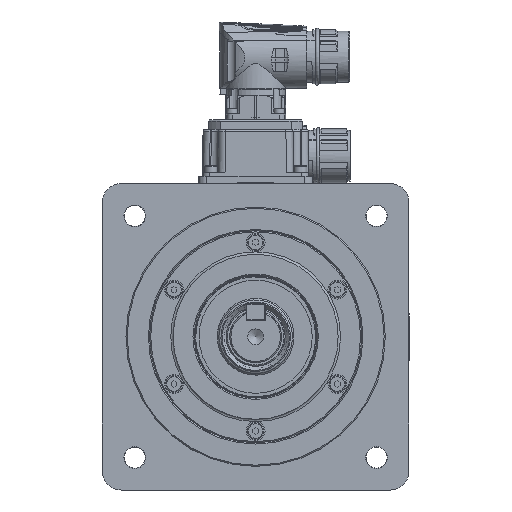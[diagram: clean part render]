
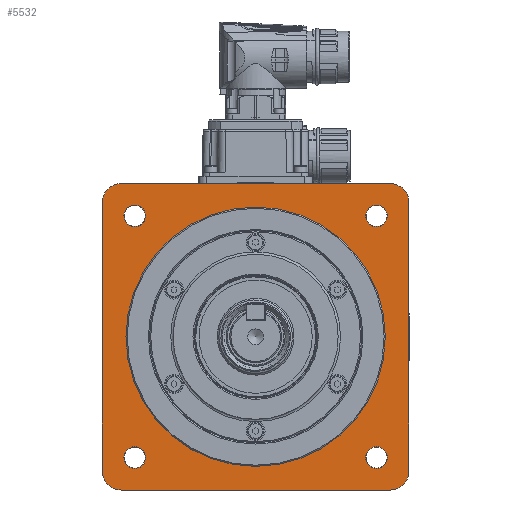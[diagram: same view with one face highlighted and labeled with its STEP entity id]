
A CAD part, front view. The second image highlights one B-rep face of the part: STEP entity #5532.
In plain terms, the highlighted planar face has unit normal (0, -1, 0).
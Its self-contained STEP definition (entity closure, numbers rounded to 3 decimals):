
#5532 = ADVANCED_FACE( '', ( #12633, #12634, #12635, #12636, #12637, #12638 ), #12639, .F. );
#12633 = FACE_BOUND( '', #28302, .T. );
#12634 = FACE_OUTER_BOUND( '', #28303, .T. );
#12635 = FACE_BOUND( '', #28304, .T. );
#12636 = FACE_BOUND( '', #28305, .T. );
#12637 = FACE_BOUND( '', #28306, .T. );
#12638 = FACE_BOUND( '', #28307, .T. );
#12639 = PLANE( '', #28308 );
#28302 = EDGE_LOOP( '', ( #49901 ) );
#28303 = EDGE_LOOP( '', ( #49902, #49903, #49904, #49905, #49906, #49907, #49908, #49909 ) );
#28304 = EDGE_LOOP( '', ( #49910 ) );
#28305 = EDGE_LOOP( '', ( #49911 ) );
#28306 = EDGE_LOOP( '', ( #49912 ) );
#28307 = EDGE_LOOP( '', ( #49913 ) );
#28308 = AXIS2_PLACEMENT_3D( '', #49914, #49915, #49916 );
#49901 = ORIENTED_EDGE( '', *, *, #63640, .F. );
#49902 = ORIENTED_EDGE( '', *, *, #65993, .F. );
#49903 = ORIENTED_EDGE( '', *, *, #64757, .T. );
#49904 = ORIENTED_EDGE( '', *, *, #66466, .F. );
#49905 = ORIENTED_EDGE( '', *, *, #66467, .T. );
#49906 = ORIENTED_EDGE( '', *, *, #66468, .F. );
#49907 = ORIENTED_EDGE( '', *, *, #65652, .T. );
#49908 = ORIENTED_EDGE( '', *, *, #66469, .F. );
#49909 = ORIENTED_EDGE( '', *, *, #62897, .T. );
#49910 = ORIENTED_EDGE( '', *, *, #66470, .F. );
#49911 = ORIENTED_EDGE( '', *, *, #66471, .F. );
#49912 = ORIENTED_EDGE( '', *, *, #66472, .F. );
#49913 = ORIENTED_EDGE( '', *, *, #65138, .F. );
#49914 = CARTESIAN_POINT( '', ( 0., 7.09, 55. ) );
#49915 = DIRECTION( '', ( 0., 1., 0. ) );
#49916 = DIRECTION( '', ( 0., 0., 1. ) );
#62897 = EDGE_CURVE( '', #74184, #74182, #74185, .T. );
#63640 = EDGE_CURVE( '', #75340, #75340, #75341, .T. );
#64757 = EDGE_CURVE( '', #77038, #77036, #77039, .T. );
#65138 = EDGE_CURVE( '', #77608, #77608, #77609, .F. );
#65652 = EDGE_CURVE( '', #78341, #78339, #78342, .T. );
#65993 = EDGE_CURVE( '', #77038, #74182, #78830, .F. );
#66466 = EDGE_CURVE( '', #79468, #77036, #79469, .F. );
#66467 = EDGE_CURVE( '', #79468, #79470, #79471, .T. );
#66468 = EDGE_CURVE( '', #78341, #79470, #79472, .F. );
#66469 = EDGE_CURVE( '', #74184, #78339, #79473, .F. );
#66470 = EDGE_CURVE( '', #79474, #79474, #79475, .F. );
#66471 = EDGE_CURVE( '', #79476, #79476, #79477, .F. );
#66472 = EDGE_CURVE( '', #79478, #79478, #79479, .F. );
#74182 = VERTEX_POINT( '', #94365 );
#74184 = VERTEX_POINT( '', #94368 );
#74185 = LINE( '', #94369, #94370 );
#75340 = VERTEX_POINT( '', #96474 );
#75341 = CIRCLE( '', #96475, 55. );
#77036 = VERTEX_POINT( '', #99946 );
#77038 = VERTEX_POINT( '', #99949 );
#77039 = LINE( '', #99950, #99951 );
#77608 = VERTEX_POINT( '', #101512 );
#77609 = CIRCLE( '', #101513, 4.6 );
#78339 = VERTEX_POINT( '', #103308 );
#78341 = VERTEX_POINT( '', #103311 );
#78342 = LINE( '', #103312, #103313 );
#78830 = CIRCLE( '', #104364, 8. );
#79468 = VERTEX_POINT( '', #105678 );
#79469 = CIRCLE( '', #105679, 8. );
#79470 = VERTEX_POINT( '', #105680 );
#79471 = LINE( '', #105681, #105682 );
#79472 = CIRCLE( '', #105683, 8. );
#79473 = CIRCLE( '', #105684, 8. );
#79474 = VERTEX_POINT( '', #105685 );
#79475 = CIRCLE( '', #105686, 4.6 );
#79476 = VERTEX_POINT( '', #105687 );
#79477 = CIRCLE( '', #105688, 4.6 );
#79478 = VERTEX_POINT( '', #105689 );
#79479 = CIRCLE( '', #105690, 4.6 );
#94365 = CARTESIAN_POINT( '', ( -57., 7.09, 65. ) );
#94368 = CARTESIAN_POINT( '', ( 57., 7.09, 65. ) );
#94369 = CARTESIAN_POINT( '', ( 65., 7.09, 65. ) );
#94370 = VECTOR( '', #116759, 1000. );
#96474 = CARTESIAN_POINT( '', ( 0., 7.09, -55. ) );
#96475 = AXIS2_PLACEMENT_3D( '', #117707, #117708, #117709 );
#99946 = CARTESIAN_POINT( '', ( -65., 7.09, -57. ) );
#99949 = CARTESIAN_POINT( '', ( -65., 7.09, 57. ) );
#99950 = CARTESIAN_POINT( '', ( -65., 7.09, 65. ) );
#99951 = VECTOR( '', #119017, 1000. );
#101512 = CARTESIAN_POINT( '', ( 51.265, 7.09, 55.866 ) );
#101513 = AXIS2_PLACEMENT_3D( '', #119435, #119436, #119437 );
#103308 = CARTESIAN_POINT( '', ( 65., 7.09, 57. ) );
#103311 = CARTESIAN_POINT( '', ( 65., 7.09, -57. ) );
#103312 = CARTESIAN_POINT( '', ( 65., 7.09, -65. ) );
#103313 = VECTOR( '', #119983, 1000. );
#104364 = AXIS2_PLACEMENT_3D( '', #120338, #120339, #120340 );
#105678 = CARTESIAN_POINT( '', ( -57., 7.09, -65. ) );
#105679 = AXIS2_PLACEMENT_3D( '', #120837, #120838, #120839 );
#105680 = CARTESIAN_POINT( '', ( 57., 7.09, -65. ) );
#105681 = CARTESIAN_POINT( '', ( -65., 7.09, -65. ) );
#105682 = VECTOR( '', #120840, 1000. );
#105683 = AXIS2_PLACEMENT_3D( '', #120841, #120842, #120843 );
#105684 = AXIS2_PLACEMENT_3D( '', #120844, #120845, #120846 );
#105685 = CARTESIAN_POINT( '', ( -51.265, 7.09, 55.866 ) );
#105686 = AXIS2_PLACEMENT_3D( '', #120847, #120848, #120849 );
#105687 = CARTESIAN_POINT( '', ( -51.265, 7.09, -46.665 ) );
#105688 = AXIS2_PLACEMENT_3D( '', #120850, #120851, #120852 );
#105689 = CARTESIAN_POINT( '', ( 51.265, 7.09, -46.665 ) );
#105690 = AXIS2_PLACEMENT_3D( '', #120853, #120854, #120855 );
#116759 = DIRECTION( '', ( -1., 0., 0. ) );
#117707 = CARTESIAN_POINT( '', ( 0., 7.09, 0. ) );
#117708 = DIRECTION( '', ( 0., -1., 0. ) );
#117709 = DIRECTION( '', ( 0., 0., -1. ) );
#119017 = DIRECTION( '', ( 0., 0., -1. ) );
#119435 = CARTESIAN_POINT( '', ( 51.265, 7.09, 51.265 ) );
#119436 = DIRECTION( '', ( 0., 1., 0. ) );
#119437 = DIRECTION( '', ( 0., 0., 1. ) );
#119983 = DIRECTION( '', ( 0., 0., 1. ) );
#120338 = CARTESIAN_POINT( '', ( -57., 7.09, 57. ) );
#120339 = DIRECTION( '', ( 0., -1., 0. ) );
#120340 = DIRECTION( '', ( 0., 0., -1. ) );
#120837 = CARTESIAN_POINT( '', ( -57., 7.09, -57. ) );
#120838 = DIRECTION( '', ( 0., -1., 0. ) );
#120839 = DIRECTION( '', ( 0., 0., -1. ) );
#120840 = DIRECTION( '', ( 1., 0., 0. ) );
#120841 = CARTESIAN_POINT( '', ( 57., 7.09, -57. ) );
#120842 = DIRECTION( '', ( 0., -1., 0. ) );
#120843 = DIRECTION( '', ( 0., 0., -1. ) );
#120844 = CARTESIAN_POINT( '', ( 57., 7.09, 57. ) );
#120845 = DIRECTION( '', ( 0., -1., 0. ) );
#120846 = DIRECTION( '', ( 0., 0., -1. ) );
#120847 = CARTESIAN_POINT( '', ( -51.265, 7.09, 51.265 ) );
#120848 = DIRECTION( '', ( 0., 1., 0. ) );
#120849 = DIRECTION( '', ( 0., 0., 1. ) );
#120850 = CARTESIAN_POINT( '', ( -51.265, 7.09, -51.265 ) );
#120851 = DIRECTION( '', ( 0., 1., 0. ) );
#120852 = DIRECTION( '', ( 0., 0., 1. ) );
#120853 = CARTESIAN_POINT( '', ( 51.265, 7.09, -51.265 ) );
#120854 = DIRECTION( '', ( 0., 1., 0. ) );
#120855 = DIRECTION( '', ( 0., 0., 1. ) );
